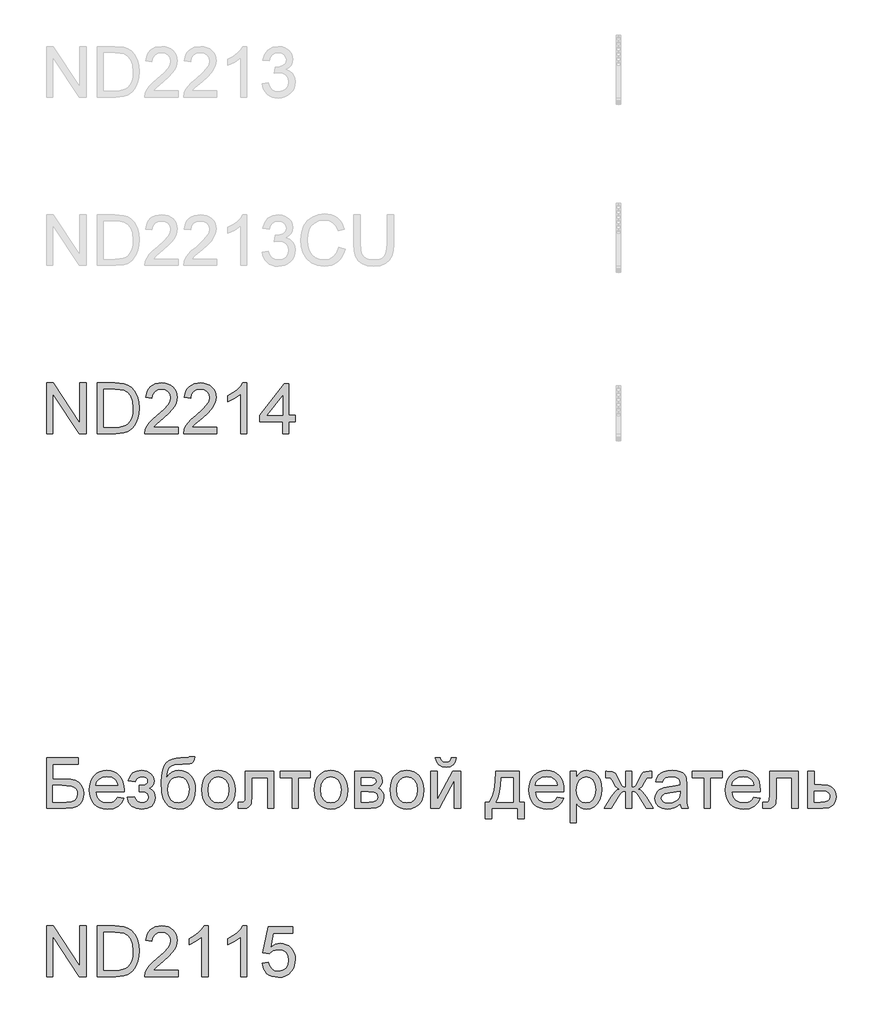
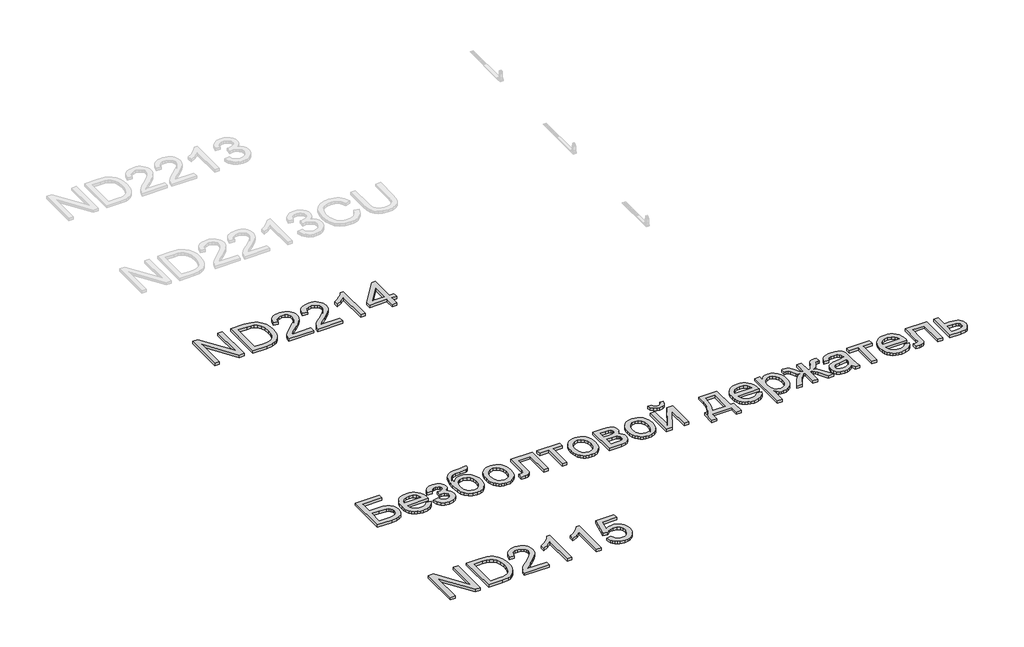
# One storey, part 70 of 124: 3 proxies.
"""IFC4 building model written with IfcOpenShell, lengths in millimetres."""

from ifc_helpers import new_model, si_unit, origin, origin_with_axes, place, context, project, spatial, polyline, outline, extrude, element, save

model = new_model("IFC4")

# Units and contexts
model_context = context("Model", 3, world=origin())
ifc_project = project(units=[si_unit("LENGTHUNIT", "METRE", prefix="MILLI")], contexts=[model_context])

# Site, building, storey
site = spatial("IfcSite", under=ifc_project)
building = spatial("IfcBuilding", under=site)
storey = spatial("IfcBuildingStorey", under=building, Name="Этаж 01", Elevation=0.0)

# Proxies
placement = place(None, origin())
element("IfcBuildingElementProxy", 1, Name="300", ObjectType="300", at=placement, inside=storey, context=model_context, shape_type="SweptSolid", body=[
    extrude(outline(polyline([(23426.0630912, -41445.8257815), (23614.4186727, -41445.8257815), (23614.4186727, -41483.4968978), (23463.7342075, -41483.4968978), (23463.7342075, -41572.965799), (23534.2939742, -41572.965799), (23569.3715224, -41574.8787854), (23596.4660314, -41580.6177445), (23617.2697582, -41591.6725985), (23633.4749601, -41609.5332693), (23643.9044146, -41632.525894), (23647.3808995, -41658.9766095), (23644.9068931, -41681.187485), (23637.4848738, -41701.9084383), (23625.1516299, -41720.0542177), (23607.9439496, -41734.5395713), (23581.4012637, -41744.0309268), (23541.0630029, -41747.1947119), (23426.0630912, -41747.1947119), (23426.0630912, -41445.8257815)]), holes=[polyline([(23463.7342075, -41709.5235956), (23544.4475172, -41709.5235956), (23572.976766, -41706.4149928), (23593.3758226, -41697.0891842), (23605.626293, -41681.5461699), (23609.7097832, -41659.7859499), (23607.3737325, -41643.580748), (23600.3655805, -41630.2818139), (23589.1911649, -41620.4225764), (23574.3563235, -41614.5364645), (23517.5921316, -41610.6369153), (23463.7342075, -41610.6369153), (23463.7342075, -41709.5235956)])]), origin_with_axes(), (0.0, 0.0, 1.0), 20.0),
    extrude(outline(polyline([(23849.4216912, -41681.2702584), (23886.3570436, -41685.9791479), (23873.0489124, -41713.8094209), (23851.8129242, -41734.6131477), (23823.1273256, -41747.580988), (23787.4703633, -41751.9036015), (23764.096061, -41750.0388996), (23743.2693415, -41744.444794), (23724.9902049, -41735.1212847), (23709.2586511, -41722.0683717), (23696.608109, -41705.6493384), (23687.5720075, -41686.2274683), (23682.1503466, -41663.8027614), (23680.3431263, -41638.3752178), (23682.1687407, -41612.0854507), (23687.6455839, -41588.9134835), (23696.7736559, -41568.8593163), (23709.5529567, -41551.9229489), (23725.2431238, -41538.4676649), (23743.1037946, -41528.8567478), (23763.1349693, -41523.0901975), (23785.3366477, -41521.1680141), (23806.8232555, -41523.085599), (23826.2543226, -41528.8383537), (23843.6298491, -41538.4262782), (23858.9498349, -41551.8493725), (23871.4555235, -41568.7489517), (23880.3881582, -41588.7663307), (23885.747739, -41611.9015097), (23887.5342659, -41638.1544886), (23887.3135367, -41648.3080316), (23718.0142426, -41648.3080316), (23724.5349509, -41676.5061866), (23739.6824921, -41697.236337), (23761.5438796, -41709.9834481), (23788.2061272, -41714.2324852), (23808.255696, -41712.2643165), (23825.1414796, -41706.3598105), (23838.863478, -41696.1510851), (23849.4216912, -41681.2702584)]), holes=[polyline([(23718.0142426, -41610.6369153), (23849.8631496, -41610.6369153), (23844.767984, -41590.7344994), (23834.7799878, -41576.4974662), (23812.8174327, -41563.2537143), (23785.1894949, -41558.8391304), (23759.7964402, -41562.3616005), (23738.7995753, -41572.9290108), (23724.2038571, -41589.4009272), (23718.0142426, -41610.6369153)])]), origin_with_axes(), (0.0, 0.0, 1.0), 20.0),
    extrude(outline(polyline([(23977.0031672, -41648.3080316), (23977.0031672, -41610.6369153), (24006.7280324, -41609.1653873), (24021.7376178, -41601.3295008), (24027.0351185, -41593.981058), (24028.8009521, -41584.9587521), (24026.4373103, -41574.244189), (24019.3463848, -41565.9392529), (24008.5214571, -41560.614161), (23994.9558085, -41558.8391304), (23981.2430072, -41560.604964), (23969.7558919, -41565.9024647), (23960.4944626, -41574.7316326), (23953.4587195, -41587.0924676), (23911.0787136, -41582.3835781), (23922.3175086, -41555.6017688), (23939.4056273, -41536.4719051), (23962.3430697, -41524.9939869), (23991.1298358, -41521.1680141), (24022.6205346, -41525.8309184), (24046.4592879, -41539.8196313), (24061.4688733, -41560.2830672), (24066.4720684, -41584.3701409), (24064.6924392, -41596.7309759), (24059.3535518, -41607.7674358), (24050.455406, -41617.4795204), (24037.998002, -41625.8672299), (24052.5385378, -41636.3334727), (24062.903613, -41649.3381012), (24069.1116217, -41664.9179037), (24071.1809579, -41683.1096684), (24065.9294425, -41710.8387738), (24050.174896, -41732.8105259), (24024.9841764, -41747.1303326), (23991.4241414, -41751.9036015), (23958.5998704, -41747.4890175), (23933.4827271, -41734.2452657), (23916.0727117, -41712.172346), (23906.3698241, -41681.2702584), (23948.7498299, -41676.5613689), (23955.0957944, -41692.4906593), (23965.7459781, -41704.3732477), (23979.4679765, -41711.7676758), (23995.0293849, -41714.2324852), (24010.1861231, -41711.8688434), (24022.5469582, -41704.7779179), (24030.7691208, -41694.0081725), (24033.5098416, -41680.6080708), (24031.8083874, -41669.9946752), (24026.7040247, -41660.8160195), (24012.2094741, -41650.221018), (23984.3608071, -41648.0873024), (23977.0031672, -41648.3080316)])), origin_with_axes(), (0.0, 0.0, 1.0), 20.0),
    extrude(outline(polyline([(24273.6632081, -41441.1168919), (24306.6254349, -41441.1168919), (24303.0569795, -41459.0235481), (24296.9133502, -41470.5106634), (24288.396882, -41477.3072832), (24277.70991, -41481.142453), (24231.5775078, -41483.4968978), (24193.2717951, -41485.6674016), (24169.4422388, -41492.1789129), (24155.1868115, -41503.4728901), (24145.6034856, -41519.9907917), (24139.965694, -41541.8613763), (24137.5468699, -41569.2134027), (24152.694411, -41548.1705525), (24170.1780028, -41533.1609671), (24190.0160394, -41524.1662524), (24212.2269149, -41521.1680141), (24232.7501317, -41523.0741027), (24251.4247415, -41528.7923685), (24268.2507442, -41538.3228114), (24283.22814, -41551.6654315), (24295.5245956, -41568.2592087), (24304.3077783, -41587.5431231), (24309.5776879, -41609.5171745), (24311.3343244, -41634.181363), (24307.8486425, -41670.141828), (24297.3915968, -41699.0021706), (24282.1520851, -41721.4337752), (24264.3190054, -41738.1080267), (24241.7310509, -41748.4547078), (24212.2269149, -41751.9036015), (24178.2254215, -41747.4614264), (24152.7403963, -41734.1349011), (24133.9876116, -41713.8829973), (24120.1828397, -41688.6646865), (24111.6847656, -41650.6900676), (24108.8520742, -41592.1692392), (24110.6386012, -41552.5046623), (24115.998182, -41519.8896242), (24124.9308167, -41494.3241248), (24137.4365053, -41475.8081641), (24153.6486049, -41462.6908717), (24173.7004729, -41453.3213771), (24197.5921093, -41447.6996804), (24225.3235139, -41445.8257815), (24267.2620614, -41444.9796529), (24273.6632081, -41441.1168919)]), holes=[polyline([(24273.6632081, -41633.0041406), (24269.5797179, -41603.3620489), (24257.3292475, -41579.6244631), (24237.6475608, -41564.0354636), (24211.2704217, -41558.8391304), (24183.7712426, -41564.3297692), (24172.6841989, -41571.1930677), (24163.3721859, -41580.8016855), (24150.7354394, -41606.4522576), (24146.5231905, -41639.4788637), (24151.1768978, -41671.4937944), (24165.1380195, -41694.9922568), (24185.9233522, -41709.4224281), (24211.0496925, -41714.2324852), (24236.3047915, -41708.66827), (24256.2991779, -41691.9756245), (24269.3222005, -41666.1043232), (24273.6632081, -41633.0041406)])]), origin_with_axes(), (0.0, 0.0, 1.0), 20.0),
    extrude(outline(polyline([(24349.0054407, -41636.5358078), (24351.0425872, -41607.8732018), (24357.1540269, -41583.1745244), (24367.3397596, -41562.4397754), (24381.5997855, -41545.668955), (24395.9563803, -41534.9497933), (24411.8028973, -41527.2932493), (24429.1393363, -41522.6993229), (24447.9656974, -41521.1680141), (24468.7487309, -41523.032716), (24487.540603, -41528.6268216), (24504.3413139, -41537.9503309), (24519.1508635, -41551.0032439), (24531.2380863, -41567.3441023), (24539.8718168, -41586.5314476), (24545.0520552, -41608.5652798), (24546.7788013, -41633.445599), (24543.7253807, -41671.5029914), (24534.5651191, -41700.4736985), (24519.5647307, -41722.1695392), (24498.9909301, -41738.4023323), (24474.5543686, -41748.5282842), (24447.9656974, -41751.9036015), (24426.8791613, -41750.0457974), (24407.9125452, -41744.4723852), (24391.0658491, -41735.1833648), (24376.3390729, -41722.1787363), (24364.3806088, -41705.6792288), (24355.8388488, -41685.9055715), (24350.7137927, -41662.8577645), (24349.0054407, -41636.5358078)]), holes=[polyline([(24386.676557, -41636.4622314), (24391.0359586, -41670.5556953), (24404.1141636, -41694.845104), (24423.7958503, -41709.3856399), (24447.9656974, -41714.2324852), (24472.0251799, -41709.3580487), (24491.6700784, -41694.7347394), (24504.7482834, -41670.1234339), (24509.107685, -41635.285009), (24504.7206922, -41602.1848265), (24491.5597138, -41578.2265116), (24471.8872241, -41563.6859757), (24447.9656974, -41558.8391304), (24423.7958503, -41563.6675816), (24404.1141636, -41578.1529352), (24391.0359586, -41602.3871616), (24386.676557, -41636.4622314)])]), origin_with_axes(), (0.0, 0.0, 1.0), 20.0),
    extrude(outline(polyline([(24607.9943653, -41525.8769036), (24777.5143887, -41525.8769036), (24777.5143887, -41746.9739827), (24739.8432724, -41746.9739827), (24739.8432724, -41563.5480199), (24645.6654816, -41563.5480199), (24645.6654816, -41669.1301526), (24643.1270958, -41717.8377287), (24638.3722211, -41728.8649915), (24629.1843682, -41738.4023323), (24615.2416406, -41744.996617), (24596.2221415, -41747.1947119), (24565.6143595, -41745.2817256), (24565.6143595, -41709.5235956), (24582.4633548, -41709.5235956), (24599.4962912, -41707.2059391), (24606.3021081, -41699.8482992), (24607.9943653, -41666.996437), (24607.9943653, -41525.8769036)])), origin_with_axes(), (0.0, 0.0, 1.0), 20.0),
    extrude(outline(polyline([(24815.185505, -41525.8769036), (24994.1233074, -41525.8769036), (24994.1233074, -41563.5480199), (24923.4899644, -41563.5480199), (24923.4899644, -41747.1947119), (24885.8188481, -41747.1947119), (24885.8188481, -41563.5480199), (24815.185505, -41563.5480199), (24815.185505, -41525.8769036)])), origin_with_axes(), (0.0, 0.0, 1.0), 20.0),
    extrude(outline(polyline([(25017.6677551, -41636.5358078), (25019.7049017, -41607.8732018), (25025.8163413, -41583.1745244), (25036.0020741, -41562.4397754), (25050.2620999, -41545.668955), (25064.6186948, -41534.9497933), (25080.4652117, -41527.2932493), (25097.8016507, -41522.6993229), (25116.6280118, -41521.1680141), (25137.4110453, -41523.032716), (25156.2029175, -41528.6268216), (25173.0036283, -41537.9503309), (25187.8131779, -41551.0032439), (25199.9004007, -41567.3441023), (25208.5341313, -41586.5314476), (25213.7143696, -41608.5652798), (25215.4411157, -41633.445599), (25212.3876952, -41671.5029914), (25203.2274335, -41700.4736985), (25188.2270451, -41722.1695392), (25167.6532446, -41738.4023323), (25143.216683, -41748.5282842), (25116.6280118, -41751.9036015), (25095.5414757, -41750.0457974), (25076.5748596, -41744.4723852), (25059.7281635, -41735.1833648), (25045.0013874, -41722.1787363), (25033.0429233, -41705.6792288), (25024.5011632, -41685.9055715), (25019.3761071, -41662.8577645), (25017.6677551, -41636.5358078)]), holes=[polyline([(25055.3388714, -41636.4622314), (25059.6982731, -41670.5556953), (25072.776478, -41694.845104), (25092.4581647, -41709.3856399), (25116.6280118, -41714.2324852), (25140.6874943, -41709.3580487), (25160.3323929, -41694.7347394), (25173.4105978, -41670.1234339), (25177.7699994, -41635.285009), (25173.3830066, -41602.1848265), (25160.2220283, -41578.2265116), (25140.5495386, -41563.6859757), (25116.6280118, -41558.8391304), (25092.4581647, -41563.6675816), (25072.776478, -41578.1529352), (25059.6982731, -41602.3871616), (25055.3388714, -41636.4622314)])]), origin_with_axes(), (0.0, 0.0, 1.0), 20.0),
    extrude(outline(polyline([(25257.8211216, -41525.8769036), (25340.8152997, -41525.8769036), (25367.4959414, -41527.1368995), (25386.3223025, -41530.916887), (25400.1730596, -41538.0537977), (25411.9268894, -41549.3845631), (25419.9559139, -41564.1458282), (25422.6322554, -41581.5742377), (25421.0135746, -41595.6181329), (25416.1575323, -41607.7306476), (25408.0457343, -41617.9669641), (25396.6597866, -41626.3822647), (25410.6025142, -41634.2089542), (25421.9700678, -41646.7997155), (25429.5300428, -41663.1612672), (25432.0500345, -41682.300328), (25425.6672819, -41711.0135177), (25410.4921496, -41731.2286333), (25386.4694553, -41743.2031923), (25353.5440167, -41747.1947119), (25257.8211216, -41747.1947119), (25257.8211216, -41525.8769036)]), holes=[polyline([(25295.4922379, -41610.6369153), (25332.7218958, -41610.6369153), (25363.4400424, -41608.723929), (25378.3760514, -41601.0719835), (25383.3148672, -41594.7444131), (25384.9611391, -41587.2396204), (25382.0732655, -41576.0008255), (25373.4096445, -41568.7719443), (25357.7562656, -41564.854001), (25333.8991182, -41563.5480199), (25295.4922379, -41563.5480199), (25295.4922379, -41610.6369153)]), polyline([(25295.4922379, -41709.5235956), (25341.6982165, -41709.5235956), (25366.879739, -41707.8221414), (25382.6802707, -41702.7177787), (25391.1599507, -41693.4379554), (25394.3789182, -41679.2101192), (25392.7694345, -41669.7831431), (25387.9409833, -41661.0735369), (25380.5281611, -41654.2585229), (25371.1655643, -41650.5153236), (25338.0193965, -41648.3080316), (25295.4922379, -41648.3080316), (25295.4922379, -41709.5235956)])]), origin_with_axes(), (0.0, 0.0, 1.0), 20.0),
    extrude(outline(polyline([(25469.7211508, -41636.5358078), (25471.7582973, -41607.8732018), (25477.869737, -41583.1745244), (25488.0554697, -41562.4397754), (25502.3154956, -41545.668955), (25516.6720904, -41534.9497933), (25532.5186074, -41527.2932493), (25549.8550464, -41522.6993229), (25568.6814075, -41521.1680141), (25589.464441, -41523.032716), (25608.2563131, -41528.6268216), (25625.057024, -41537.9503309), (25639.8665736, -41551.0032439), (25651.9537964, -41567.3441023), (25660.5875269, -41586.5314476), (25665.7677653, -41608.5652798), (25667.4945114, -41633.445599), (25664.4410908, -41671.5029914), (25655.2808292, -41700.4736985), (25640.2804408, -41722.1695392), (25619.7066402, -41738.4023323), (25595.2700787, -41748.5282842), (25568.6814075, -41751.9036015), (25547.5948714, -41750.0457974), (25528.6282553, -41744.4723852), (25511.7815592, -41735.1833648), (25497.054783, -41722.1787363), (25485.0963189, -41705.6792288), (25476.5545589, -41685.9055715), (25471.4295028, -41662.8577645), (25469.7211508, -41636.5358078)]), holes=[polyline([(25507.3922671, -41636.4622314), (25511.7516687, -41670.5556953), (25524.8298737, -41694.845104), (25544.5115604, -41709.3856399), (25568.6814075, -41714.2324852), (25592.74089, -41709.3580487), (25612.3857885, -41694.7347394), (25625.4639935, -41670.1234339), (25629.8233951, -41635.285009), (25625.4364023, -41602.1848265), (25612.2754239, -41578.2265116), (25592.6029342, -41563.6859757), (25568.6814075, -41558.8391304), (25544.5115604, -41563.6675816), (25524.8298737, -41578.1529352), (25511.7516687, -41602.3871616), (25507.3922671, -41636.4622314)])]), origin_with_axes(), (0.0, 0.0, 1.0), 20.0),
    extrude(outline(polyline([(25709.8745173, -41525.8769036), (25747.5456336, -41525.8769036), (25747.5456336, -41694.661163), (25840.1047435, -41525.8769036), (25888.8123197, -41525.8769036), (25888.8123197, -41747.1947119), (25851.1412034, -41747.1947119), (25851.1412034, -41579.4405221), (25759.1707046, -41747.1947119), (25709.8745173, -41747.1947119), (25709.8745173, -41525.8769036)])), origin_with_axes(), (0.0, 0.0, 1.0), 20.0),
    extrude(outline(polyline([(25832.3056452, -41445.8257815), (25860.5589825, -41445.8257815), (25854.4797325, -41469.9496433), (25842.2752473, -41487.7275407), (25824.4973499, -41498.6812271), (25801.6978632, -41502.3324559), (25776.9577991, -41498.7088183), (25757.772753, -41487.8379053), (25744.6577599, -41470.0875991), (25738.1278545, -41445.8257815), (25766.3811917, -41445.8257815), (25770.3543173, -41458.2326018), (25776.9761932, -41467.0525726), (25786.2836077, -41472.3224822), (25798.3133489, -41474.0791187), (25811.8881945, -41472.3776645), (25821.7106438, -41467.2733018), (25828.3325197, -41458.5085133), (25832.3056452, -41445.8257815)])), origin_with_axes(), (0.0, 0.0, 1.0), 20.0),
    extrude(outline(polyline([(26096.0034594, -41525.8769036), (26237.2701455, -41525.8769036), (26237.2701455, -41709.5235956), (26265.5234828, -41709.5235956), (26265.5234828, -41808.4102759), (26227.8523665, -41808.4102759), (26227.8523665, -41747.1947119), (26072.4590117, -41747.1947119), (26072.4590117, -41808.4102759), (26034.7878954, -41808.4102759), (26034.7878954, -41709.5235956), (26058.3323431, -41709.5235956), (26075.4480529, -41678.5939169), (26087.4318089, -41637.676242), (26094.2836111, -41586.7705709), (26096.0034594, -41525.8769036)]), holes=[polyline([(26128.9656862, -41563.5480199), (26125.8754774, -41609.6712251), (26120.1365183, -41649.3748894), (26111.7488088, -41682.6590129), (26100.7123489, -41709.5235956), (26199.5990292, -41709.5235956), (26199.5990292, -41563.5480199), (26128.9656862, -41563.5480199)])]), origin_with_axes(), (0.0, 0.0, 1.0), 20.0),
    extrude(outline(polyline([(26462.855385, -41681.2702584), (26499.7907373, -41685.9791479), (26486.4826061, -41713.8094209), (26465.2466179, -41734.6131477), (26436.5610194, -41747.580988), (26400.904057, -41751.9036015), (26377.5297547, -41750.0388996), (26356.7030353, -41744.444794), (26338.4238986, -41735.1212847), (26322.6923448, -41722.0683717), (26310.0418027, -41705.6493384), (26301.0057012, -41686.2274683), (26295.5840403, -41663.8027614), (26293.77682, -41638.3752178), (26295.6024344, -41612.0854507), (26301.0792776, -41588.9134835), (26310.2073496, -41568.8593163), (26322.9866504, -41551.9229489), (26338.6768175, -41538.4676649), (26356.5374884, -41528.8567478), (26376.568663, -41523.0901975), (26398.7703414, -41521.1680141), (26420.2569492, -41523.085599), (26439.6880163, -41528.8383537), (26457.0635428, -41538.4262782), (26472.3835287, -41551.8493725), (26484.8892172, -41568.7489517), (26493.8218519, -41588.7663307), (26499.1814327, -41611.9015097), (26500.9679597, -41638.1544886), (26500.7472305, -41648.3080316), (26331.4479363, -41648.3080316), (26337.9686447, -41676.5061866), (26353.1161858, -41697.236337), (26374.9775734, -41709.9834481), (26401.639821, -41714.2324852), (26421.6893897, -41712.2643165), (26438.5751733, -41706.3598105), (26452.2971717, -41696.1510851), (26462.855385, -41681.2702584)]), holes=[polyline([(26331.4479363, -41610.6369153), (26463.2968434, -41610.6369153), (26458.2016777, -41590.7344994), (26448.2136816, -41576.4974662), (26426.2511265, -41563.2537143), (26398.6231886, -41558.8391304), (26373.2301339, -41562.3616005), (26352.233269, -41572.9290108), (26337.6375509, -41589.4009272), (26331.4479363, -41610.6369153)])]), origin_with_axes(), (0.0, 0.0, 1.0), 20.0),
    extrude(outline(polyline([(26538.639076, -41831.9547236), (26538.639076, -41525.8769036), (26576.3101923, -41525.8769036), (26576.3101923, -41562.812256), (26588.5974509, -41544.5929001), (26602.3562376, -41531.5790746), (26618.3958925, -41523.7707792), (26637.5257563, -41521.1680141), (26663.0015845, -41524.8100459), (26685.2768393, -41535.7361411), (26703.4134216, -41553.2841123), (26716.4732325, -41576.7917718), (26724.3643013, -41604.5484683), (26726.9946575, -41634.8435506), (26724.0240104, -41667.0608163), (26715.1120691, -41695.8751736), (26700.5439421, -41719.8242915), (26680.6047379, -41737.4458391), (26657.382187, -41748.2891609), (26632.9640195, -41751.9036015), (26615.6459746, -41749.4847774), (26600.1857338, -41742.228305), (26586.951179, -41731.2746186), (26576.3101923, -41717.7641523), (26576.3101923, -41831.9547236), (26538.639076, -41831.9547236)]), holes=[polyline([(26576.3101923, -41638.3016414), (26580.3844854, -41672.0732085), (26592.6073647, -41695.6912326), (26610.6427795, -41709.597172), (26632.1546792, -41714.2324852), (26654.0160667, -41709.4316251), (26672.511334, -41695.029045), (26685.1204894, -41670.5464982), (26689.3235412, -41635.5057382), (26685.221657, -41601.918112), (26672.9160042, -41577.9689942), (26654.9081806, -41563.6215963), (26633.6997835, -41558.8391304), (26612.4086131, -41563.925099), (26593.7110107, -41579.1830047), (26580.6603969, -41604.1346011), (26576.3101923, -41638.3016414)])]), origin_with_axes(), (0.0, 0.0, 1.0), 20.0),
    extrude(outline(polyline([(26905.93246, -41525.8769036), (26905.93246, -41620.0546944), (26919.222197, -41618.1141169), (26927.8950151, -41612.2923843), (26948.6803478, -41572.0093058), (26961.6481881, -41546.9013597), (26973.4755943, -41533.3816963), (26987.8413862, -41527.7531018), (27008.7186894, -41525.8769036), (27023.6546984, -41525.8769036), (27023.6546984, -41563.7687491), (27013.2804262, -41563.5480199), (26993.8562568, -41567.4475691), (26980.3917758, -41591.8749336), (26964.756791, -41618.6567428), (26942.4263539, -41632.2683766), (26954.8193786, -41637.5704759), (26967.0560535, -41646.9284742), (26991.0603537, -41677.8121676), (27033.0724775, -41747.1947119), (26989.8831313, -41747.1947119), (26948.533195, -41678.7686608), (26937.2300207, -41660.8068224), (26927.4535567, -41650.3313826), (26917.5667281, -41645.2822022), (26905.93246, -41643.5991421), (26905.93246, -41747.1947119), (26868.2613437, -41747.1947119), (26868.2613437, -41643.5991421), (26856.7190461, -41645.245414), (26846.8138233, -41650.1842298), (26836.9637829, -41660.5860932), (26825.5870322, -41678.621508), (26784.237096, -41747.1947119), (26741.1213261, -41747.1947119), (26782.9862972, -41677.8121676), (26807.1745384, -41646.9284742), (26819.4755926, -41637.5704759), (26831.9146025, -41632.2683766), (26817.5304165, -41625.0578895), (26808.2230021, -41617.2587912), (26787.9159159, -41578.6311817), (26777.983102, -41565.9024647), (26761.7227179, -41563.3272907), (26750.5391052, -41563.5480199), (26750.5391052, -41525.8769036), (26756.2044879, -41525.8769036), (26789.2402911, -41528.2313484), (26806.3835921, -41538.2377387), (26825.5870322, -41572.0093058), (26846.1516358, -41612.0348669), (26854.8244538, -41618.0497375), (26868.2613437, -41620.0546944), (26868.2613437, -41525.8769036), (26905.93246, -41525.8769036)])), origin_with_axes(), (0.0, 0.0, 1.0), 20.0),
    extrude(outline(polyline([(27193.1747218, -41718.9413747), (27175.1760952, -41734.3740244), (27156.6440397, -41744.4723852), (27137.155491, -41750.0457974), (27116.2873848, -41751.9036015), (27084.8058831, -41747.4338352), (27061.5833321, -41734.0245365), (27047.2635255, -41713.6622681), (27042.4902566, -41688.3335927), (27044.2928784, -41672.717002), (27049.7007437, -41658.5351511), (27058.0424679, -41646.3950453), (27068.6466664, -41636.9036898), (27095.0238055, -41624.5428547), (27127.6181503, -41618.877472), (27166.1353952, -41612.9177837), (27192.9539926, -41605.9280258), (27193.1747218, -41597.5403163), (27190.5811537, -41580.7281091), (27182.8004495, -41569.7284375), (27165.3996312, -41561.5614572), (27141.1562077, -41558.8391304), (27118.715406, -41560.6509492), (27103.043633, -41566.0864057), (27092.356661, -41576.1387812), (27084.8702624, -41591.8013572), (27047.1991461, -41587.0924676), (27053.7382486, -41566.4910759), (27063.4963185, -41550.3042681), (27077.3838638, -41537.925039), (27096.3113925, -41528.7463832), (27119.460367, -41523.0626064), (27146.01225, -41521.1680141), (27171.4788811, -41522.8418772), (27191.6664056, -41527.8634664), (27206.8875232, -41535.4142444), (27217.4549335, -41544.6756736), (27224.4630855, -41556.1260007), (27229.0064281, -41570.2434723), (27230.8458381, -41603.205699), (27230.8458381, -41650.0738652), (27232.7588245, -41715.5200722), (27240.2636172, -41747.1947119), (27202.5925009, -41747.1947119), (27193.1747218, -41718.9413747)]), holes=[polyline([(27193.1747218, -41643.5991421), (27132.4006162, -41655.1506367), (27099.9902124, -41661.2574779), (27085.3117208, -41671.1902917), (27080.1613729, -41685.6848423), (27082.9664731, -41696.8868491), (27091.3817737, -41706.0655049), (27105.2233338, -41712.1907401), (27124.3072123, -41714.2324852), (27144.540722, -41711.9792079), (27162.419787, -41705.2193763), (27176.9143376, -41695.2589713), (27186.9943043, -41683.403974), (27191.4640705, -41671.1902917), (27192.9539926, -41654.26772), (27193.1747218, -41643.5991421)])]), origin_with_axes(), (0.0, 0.0, 1.0), 20.0),
    extrude(outline(polyline([(27263.8080649, -41525.8769036), (27442.7458673, -41525.8769036), (27442.7458673, -41563.5480199), (27372.1125243, -41563.5480199), (27372.1125243, -41747.1947119), (27334.441408, -41747.1947119), (27334.441408, -41563.5480199), (27263.8080649, -41563.5480199), (27263.8080649, -41525.8769036)])), origin_with_axes(), (0.0, 0.0, 1.0), 20.0),
    extrude(outline(polyline([(27630.6599905, -41681.2702584), (27667.5953428, -41685.9791479), (27654.2872116, -41713.8094209), (27633.0512234, -41734.6131477), (27604.3656249, -41747.580988), (27568.7086625, -41751.9036015), (27545.3343602, -41750.0388996), (27524.5076408, -41744.444794), (27506.2285041, -41735.1212847), (27490.4969503, -41722.0683717), (27477.8464082, -41705.6493384), (27468.8103067, -41686.2274683), (27463.3886458, -41663.8027614), (27461.5814255, -41638.3752178), (27463.4070399, -41612.0854507), (27468.8838831, -41588.9134835), (27478.0119551, -41568.8593163), (27490.7912559, -41551.9229489), (27506.481423, -41538.4676649), (27524.3420939, -41528.8567478), (27544.3732685, -41523.0901975), (27566.5749469, -41521.1680141), (27588.0615547, -41523.085599), (27607.4926218, -41528.8383537), (27624.8681483, -41538.4262782), (27640.1881341, -41551.8493725), (27652.6938227, -41568.7489517), (27661.6264574, -41588.7663307), (27666.9860382, -41611.9015097), (27668.7725652, -41638.1544886), (27668.551836, -41648.3080316), (27499.2525418, -41648.3080316), (27505.7732502, -41676.5061866), (27520.9207913, -41697.236337), (27542.7821789, -41709.9834481), (27569.4444265, -41714.2324852), (27589.4939952, -41712.2643165), (27606.3797788, -41706.3598105), (27620.1017772, -41696.1510851), (27630.6599905, -41681.2702584)]), holes=[polyline([(27499.2525418, -41610.6369153), (27631.1014489, -41610.6369153), (27626.0062832, -41590.7344994), (27616.0182871, -41576.4974662), (27594.0557319, -41563.2537143), (27566.4277941, -41558.8391304), (27541.0347394, -41562.3616005), (27520.0378745, -41572.9290108), (27505.4421564, -41589.4009272), (27499.2525418, -41610.6369153)])]), origin_with_axes(), (0.0, 0.0, 1.0), 20.0),
    extrude(outline(polyline([(27725.2792396, -41525.8769036), (27894.799263, -41525.8769036), (27894.799263, -41746.9739827), (27857.1281467, -41746.9739827), (27857.1281467, -41563.5480199), (27762.9503559, -41563.5480199), (27762.9503559, -41669.1301526), (27760.4119702, -41717.8377287), (27755.6570954, -41728.8649915), (27746.4692426, -41738.4023323), (27732.5265149, -41744.996617), (27713.5070158, -41747.1947119), (27682.8992338, -41745.2817256), (27682.8992338, -41709.5235956), (27699.7482292, -41709.5235956), (27716.7811655, -41707.2059391), (27723.5869825, -41699.8482992), (27725.2792396, -41666.996437), (27725.2792396, -41525.8769036)])), origin_with_axes(), (0.0, 0.0, 1.0), 20.0),
    extrude(outline(polyline([(27951.3059375, -41525.8769036), (27988.9770538, -41525.8769036), (27988.9770538, -41605.9280258), (28032.3871292, -41605.9280258), (28070.0214573, -41610.6461124), (28085.1689985, -41616.5437206), (28097.8701243, -41624.8003721), (28107.9133028, -41635.1309584), (28115.0870017, -41647.2503709), (28120.8259608, -41676.8556745), (28115.9423274, -41703.8122277), (28101.2914269, -41726.556532), (28090.0595297, -41735.5857357), (28075.8983722, -41742.035167), (28038.7882759, -41747.1947119), (27951.3059375, -41747.1947119), (27951.3059375, -41525.8769036)]), holes=[polyline([(27988.9770538, -41709.5235956), (28024.1465725, -41709.5235956), (28051.4342195, -41707.5462299), (28069.5799989, -41701.6141327), (28079.7611331, -41691.4881808), (28083.1548445, -41676.9292509), (28080.6440499, -41664.6235981), (28073.1116661, -41653.7526852), (28056.9708435, -41646.1375279), (28028.6347329, -41643.5991421), (27988.9770538, -41643.5991421), (27988.9770538, -41709.5235956)])]), origin_with_axes(), (0.0, 0.0, 1.0), 20.0),
])
element("IfcBuildingElementProxy", 2, Name="300", ObjectType="300", at=placement, inside=storey, context=model_context, shape_type="SweptSolid", body=[
    extrude(outline(polyline([(23426.0630912, -42747.1947119), (23426.0630912, -42445.8257815), (23466.3829579, -42445.8257815), (23623.8364518, -42684.5811964), (23623.8364518, -42445.8257815), (23661.5075681, -42445.8257815), (23661.5075681, -42747.1947119), (23621.1877014, -42747.1947119), (23463.7342075, -42508.3657207), (23463.7342075, -42747.1947119), (23426.0630912, -42747.1947119)])), origin_with_axes(), (0.0, 0.0, 1.0), 20.0),
    extrude(outline(polyline([(23727.4320216, -42747.1947119), (23727.4320216, -42445.8257815), (23831.3954735, -42445.8257815), (23885.1798212, -42450.166789), (23909.2025155, -42458.5361044), (23929.4728134, -42471.7246739), (23950.3133284, -42494.6805104), (23965.1573669, -42523.2281533), (23974.0417171, -42556.8157794), (23977.0031672, -42594.8915659), (23974.9982103, -42627.2375904), (23968.9833397, -42655.7024597), (23959.823078, -42679.9366862), (23948.3819479, -42699.5907818), (23935.2117725, -42715.1062049), (23920.8643747, -42726.924414), (23904.3924584, -42735.6892025), (23884.8487274, -42742.044364), (23836.3986686, -42747.1947119), (23727.4320216, -42747.1947119)]), holes=[polyline([(23765.1031379, -42709.5235956), (23831.7633555, -42709.5235956), (23859.336111, -42708.1624322), (23880.2502024, -42704.0789421), (23896.03234, -42697.5122485), (23908.2092341, -42688.7014747), (23921.2966361, -42672.3951053), (23931.1282824, -42651.2878758), (23937.2811087, -42625.2878158), (23939.3320509, -42594.3029547), (23935.3129401, -42553.2473241), (23923.2556077, -42522.9338477), (23905.4409221, -42502.1117268), (23884.1497516, -42489.5301625), (23862.4815021, -42485.005214), (23830.7332859, -42483.4968978), (23765.1031379, -42483.4968978), (23765.1031379, -42709.5235956)])]), origin_with_axes(), (0.0, 0.0, 1.0), 20.0),
    extrude(outline(polyline([(24207.7387545, -42709.5235956), (24207.7387545, -42747.1947119), (24009.9653939, -42747.1947119), (24014.0120959, -42721.2222431), (24023.3011163, -42700.924354), (24036.894356, -42681.2334702), (24056.5576486, -42660.6228814), (24084.0568278, -42637.5658774), (24124.7077882, -42601.4582595), (24149.0983645, -42574.805209), (24161.2936527, -42553.1737477), (24165.3587487, -42532.1308976), (24161.5235789, -42513.2677483), (24150.0180695, -42497.5867782), (24132.3321426, -42487.0193679), (24109.9557202, -42483.4968978), (24086.4572578, -42486.9365944), (24068.2011138, -42497.2556844), (24056.4196929, -42513.6448273), (24052.3453998, -42535.2946827), (24014.6742835, -42530.5857932), (24023.806954, -42494.1470816), (24032.3533126, -42479.6111442), (24043.5530201, -42467.5308192), (24057.1485591, -42458.0348652), (24072.8824122, -42451.2520409), (24110.7650606, -42445.8257815), (24130.9548844, -42447.3340977), (24148.9236206, -42451.8590462), (24164.6712692, -42459.4006271), (24178.1978303, -42469.9588404), (24189.0618455, -42482.7519368), (24196.8218563, -42496.998167), (24201.4778628, -42512.6975312), (24203.029865, -42529.8500292), (24201.3560019, -42547.8670499), (24196.3344127, -42565.5713709), (24187.4224714, -42583.5791946), (24174.077552, -42602.5067232), (24152.8047756, -42625.1038748), (24120.1092633, -42654.1205672), (24076.7727643, -42690.3569437), (24059.7766161, -42709.5235956), (24207.7387545, -42709.5235956)])), origin_with_axes(), (0.0, 0.0, 1.0), 20.0),
    extrude(outline(polyline([(24386.676557, -42747.1947119), (24349.0054407, -42747.1947119), (24349.0054407, -42512.3388462), (24313.3208872, -42537.7594921), (24273.6632081, -42556.7789912), (24273.6632081, -42521.1680141), (24303.2501175, -42505.0731768), (24328.8822956, -42485.924919), (24349.0882141, -42465.5626505), (24362.3963453, -42445.8257815), (24386.676557, -42445.8257815), (24386.676557, -42747.1947119)])), origin_with_axes(), (0.0, 0.0, 1.0), 20.0),
    extrude(outline(polyline([(24617.4121444, -42747.1947119), (24579.7410281, -42747.1947119), (24579.7410281, -42512.3388462), (24544.0564745, -42537.7594921), (24504.3987955, -42556.7789912), (24504.3987955, -42521.1680141), (24533.9857049, -42505.0731768), (24559.6178829, -42485.924919), (24579.8238015, -42465.5626505), (24593.1319327, -42445.8257815), (24617.4121444, -42445.8257815), (24617.4121444, -42747.1947119)])), origin_with_axes(), (0.0, 0.0, 1.0), 20.0),
    extrude(outline(polyline([(24706.8810456, -42667.1435898), (24744.5521619, -42662.4347002), (24751.4683434, -42685.0502459), (24763.5348729, -42701.2462507), (24780.6965679, -42710.9859266), (24802.8982463, -42714.2324852), (24829.9007848, -42709.7167337), (24850.1342945, -42696.1694792), (24862.7710411, -42675.1542202), (24866.9832899, -42648.2344552), (24863.0377555, -42622.8873858), (24851.2011523, -42603.5000046), (24831.3815098, -42591.1943519), (24803.4868575, -42587.0924676), (24785.2123194, -42588.7295425), (24770.4142662, -42593.6407672), (24749.2610514, -42610.6369153), (24711.5899351, -42605.9280258), (24744.5521619, -42450.534671), (24890.5277376, -42450.534671), (24890.5277376, -42488.2057873), (24775.0127911, -42488.2057873), (24758.8995597, -42571.1999654), (24785.8101277, -42554.8660049), (24814.0082826, -42549.4213513), (24832.3540978, -42551.10901), (24849.2053925, -42556.1719859), (24864.5621665, -42564.6102792), (24878.42442, -42576.4238898), (24889.9000389, -42590.8908492), (24898.0969096, -42607.2891892), (24903.0150321, -42625.6189096), (24904.6544062, -42645.8800105), (24898.7499002, -42683.5511268), (24891.3692677, -42700.3449399), (24881.0363821, -42715.7775895), (24865.3830032, -42731.5827198), (24847.1176622, -42742.8720985), (24826.2403589, -42749.6457257), (24802.7510935, -42751.9036015), (24765.7513619, -42746.100263), (24750.0726911, -42738.8460899), (24736.274817, -42728.6902476), (24724.7945995, -42716.1385738), (24716.0688984, -42701.6969062), (24706.8810456, -42667.1435898)])), origin_with_axes(), (0.0, 0.0, 1.0), 20.0),
])
element("IfcBuildingElementProxy", 3, Name="300", ObjectType="300", at=placement, inside=storey, context=model_context, shape_type="SweptSolid", body=[
    extrude(outline(polyline([(23426.0630912, -39519.5141033), (23426.0630912, -39218.1451728), (23466.3829579, -39218.1451728), (23623.8364518, -39456.9005877), (23623.8364518, -39218.1451728), (23661.5075681, -39218.1451728), (23661.5075681, -39519.5141033), (23621.1877014, -39519.5141033), (23463.7342075, -39280.685112), (23463.7342075, -39519.5141033), (23426.0630912, -39519.5141033)])), origin_with_axes(), (0.0, 0.0, 1.0), 20.0),
    extrude(outline(polyline([(23727.4320216, -39519.5141033), (23727.4320216, -39218.1451728), (23831.3954735, -39218.1451728), (23885.1798212, -39222.4861804), (23909.2025155, -39230.8554957), (23929.4728134, -39244.0440653), (23950.3133284, -39266.9999018), (23965.1573669, -39295.5475446), (23974.0417171, -39329.1351708), (23977.0031672, -39367.2109573), (23974.9982103, -39399.5569817), (23968.9833397, -39428.0218511), (23959.823078, -39452.2560775), (23948.3819479, -39471.9101731), (23935.2117725, -39487.4255962), (23920.8643747, -39499.2438053), (23904.3924584, -39508.0085939), (23884.8487274, -39514.3637553), (23836.3986686, -39519.5141033), (23727.4320216, -39519.5141033)]), holes=[polyline([(23765.1031379, -39481.842987), (23831.7633555, -39481.842987), (23859.336111, -39480.4818236), (23880.2502024, -39476.3983334), (23896.03234, -39469.8316398), (23908.2092341, -39461.020866), (23921.2966361, -39444.7144966), (23931.1282824, -39423.6072671), (23937.2811087, -39397.6072071), (23939.3320509, -39366.6223461), (23935.3129401, -39325.5667154), (23923.2556077, -39295.253239), (23905.4409221, -39274.4311181), (23884.1497516, -39261.8495538), (23862.4815021, -39257.3246053), (23830.7332859, -39255.8162891), (23765.1031379, -39255.8162891), (23765.1031379, -39481.842987)])]), origin_with_axes(), (0.0, 0.0, 1.0), 20.0),
    extrude(outline(polyline([(24207.7387545, -39481.842987), (24207.7387545, -39519.5141033), (24009.9653939, -39519.5141033), (24014.0120959, -39493.5416344), (24023.3011163, -39473.2437453), (24036.894356, -39453.5528615), (24056.5576486, -39432.9422727), (24084.0568278, -39409.8852687), (24124.7077882, -39373.7776509), (24149.0983645, -39347.1246003), (24161.2936527, -39325.493139), (24165.3587487, -39304.4502889), (24161.5235789, -39285.5871396), (24150.0180695, -39269.9061695), (24132.3321426, -39259.3387592), (24109.9557202, -39255.8162891), (24086.4572578, -39259.2559858), (24068.2011138, -39269.5750757), (24056.4196929, -39285.9642186), (24052.3453998, -39307.614074), (24014.6742835, -39302.9051845), (24023.806954, -39266.4664729), (24032.3533126, -39251.9305355), (24043.5530201, -39239.8502105), (24057.1485591, -39230.3542565), (24072.8824122, -39223.5714322), (24110.7650606, -39218.1451728), (24130.9548844, -39219.653489), (24148.9236206, -39224.1784375), (24164.6712692, -39231.7200184), (24178.1978303, -39242.2782317), (24189.0618455, -39255.0713281), (24196.8218563, -39269.3175583), (24201.4778628, -39285.0169225), (24203.029865, -39302.1694205), (24201.3560019, -39320.1864412), (24196.3344127, -39337.8907622), (24187.4224714, -39355.8985859), (24174.077552, -39374.8261146), (24152.8047756, -39397.4232661), (24120.1092633, -39426.4399585), (24076.7727643, -39462.676335), (24059.7766161, -39481.842987), (24207.7387545, -39481.842987)])), origin_with_axes(), (0.0, 0.0, 1.0), 20.0),
    extrude(outline(polyline([(24438.4743419, -39481.842987), (24438.4743419, -39519.5141033), (24240.7009813, -39519.5141033), (24244.7476833, -39493.5416344), (24254.0367036, -39473.2437453), (24267.6299434, -39453.5528615), (24287.293236, -39432.9422727), (24314.7924151, -39409.8852687), (24355.4433756, -39373.7776509), (24379.8339519, -39347.1246003), (24392.02924, -39325.493139), (24396.0943361, -39304.4502889), (24392.2591663, -39285.5871396), (24380.7536569, -39269.9061695), (24363.06773, -39259.3387592), (24340.6913076, -39255.8162891), (24317.1928452, -39259.2559858), (24298.9367012, -39269.5750757), (24287.1552803, -39285.9642186), (24283.0809872, -39307.614074), (24245.4098709, -39302.9051845), (24254.5425414, -39266.4664729), (24263.0889, -39251.9305355), (24274.2886075, -39239.8502105), (24287.8841465, -39230.3542565), (24303.6179995, -39223.5714322), (24341.500648, -39218.1451728), (24361.6904717, -39219.653489), (24379.6592079, -39224.1784375), (24395.4068566, -39231.7200184), (24408.9334177, -39242.2782317), (24419.7974329, -39255.0713281), (24427.5574437, -39269.3175583), (24432.2134502, -39285.0169225), (24433.7654524, -39302.1694205), (24432.0915893, -39320.1864412), (24427.0700001, -39337.8907622), (24418.1580587, -39355.8985859), (24404.8131394, -39374.8261146), (24383.540363, -39397.4232661), (24350.8448507, -39426.4399585), (24307.5083516, -39462.676335), (24290.5122035, -39481.842987), (24438.4743419, -39481.842987)])), origin_with_axes(), (0.0, 0.0, 1.0), 20.0),
    extrude(outline(polyline([(24617.4121444, -39519.5141033), (24579.7410281, -39519.5141033), (24579.7410281, -39284.6582375), (24544.0564745, -39310.0788834), (24504.3987955, -39329.0983826), (24504.3987955, -39293.4874054), (24533.9857049, -39277.3925681), (24559.6178829, -39258.2443103), (24579.8238015, -39237.8820419), (24593.1319327, -39218.1451728), (24617.4121444, -39218.1451728), (24617.4121444, -39519.5141033)])), origin_with_axes(), (0.0, 0.0, 1.0), 20.0),
    extrude(outline(polyline([(24829.3121736, -39519.5141033), (24829.3121736, -39448.8807602), (24692.754377, -39448.8807602), (24692.754377, -39411.2096439), (24838.7299527, -39222.8540623), (24866.9832899, -39222.8540623), (24866.9832899, -39411.2096439), (24904.6544062, -39411.2096439), (24904.6544062, -39448.8807602), (24866.9832899, -39448.8807602), (24866.9832899, -39519.5141033), (24829.3121736, -39519.5141033)]), holes=[polyline([(24829.3121736, -39411.2096439), (24829.3121736, -39294.8117806), (24739.1075084, -39411.2096439), (24829.3121736, -39411.2096439)])]), origin_with_axes(), (0.0, 0.0, 1.0), 20.0),
])

save(model, "model.ifc")
